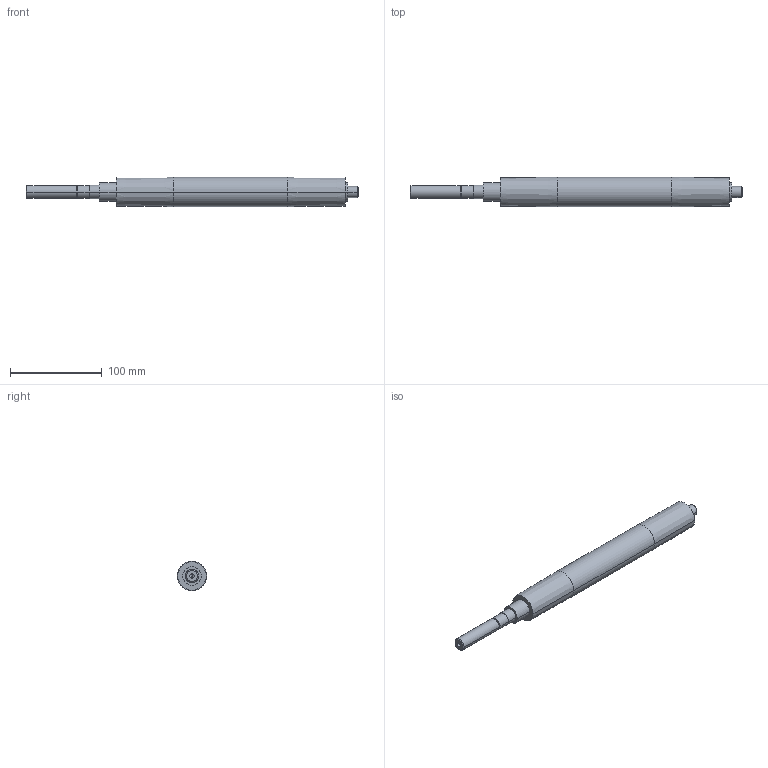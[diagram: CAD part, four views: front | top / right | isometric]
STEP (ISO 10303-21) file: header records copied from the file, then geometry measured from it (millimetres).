
FILE_DESCRIPTION (( 'STEP AP214' ), '1' );
FILE_NAME ('084.030.209.STEP', '2021-02-05T15:54:34', ( '' ), ( '' ), 'SwSTEP 2.0', 'SolidWorks 2018', '' );
FILE_SCHEMA (( 'AUTOMOTIVE_DESIGN' ));
Length unit declared in the file: millimetre
Products named in the file (1): 084.030.209
Bounding box: 361.5 x 32 x 32 mm (x, y, z)
Volume: 216714.7 mm3; surface area: 32173 mm2
Topology: 1 solids, 1 shells, 42 faces, 89 edges, 55 vertices
Faces by surface type: cylinder 20, plane 12, cone 10
Entity records: 1237 total; most frequent: CARTESIAN_POINT 249, DIRECTION 215, ORIENTED_EDGE 174, AXIS2_PLACEMENT_3D 89, EDGE_CURVE 87, VERTEX_POINT 55, EDGE_LOOP 50, CIRCLE 46
